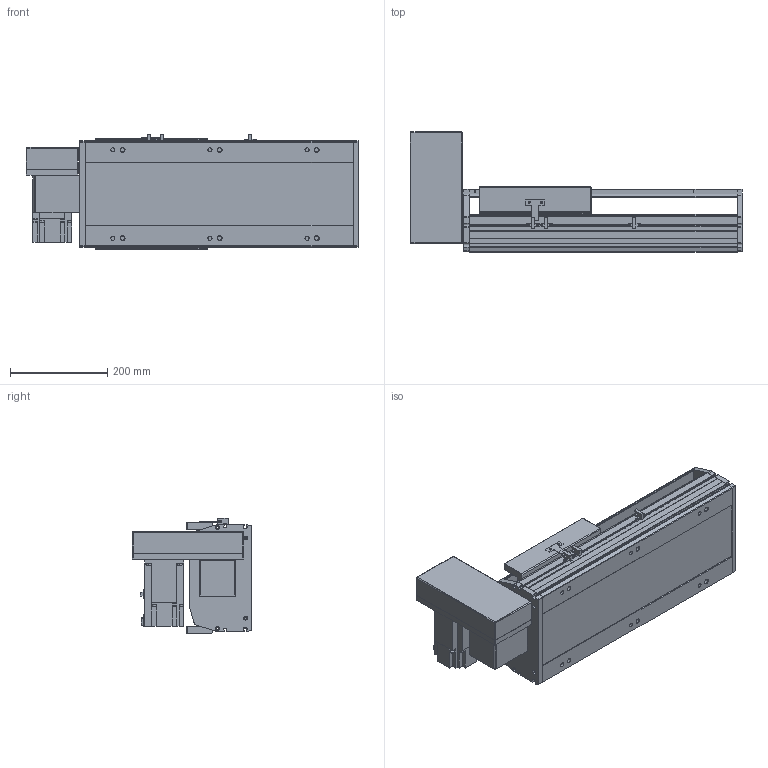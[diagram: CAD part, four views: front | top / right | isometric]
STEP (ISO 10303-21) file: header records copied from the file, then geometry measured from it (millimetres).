
FILE_DESCRIPTION(/* description */ ('STEP AP214'),/* implementation_level */ '2;1');
FILE_NAME(/* name */ 'PBS220-P40-S200-RU-T75-C1-N(0)',/* time_stamp */ '2022-06-13T02:49:38+02:00',/* author */ ('License CC BY-ND 4.0'),/* organization */ ('CADENAS'),/* preprocessor_version */ 'ST-DEVELOPER v18.102',/* originating_system */ 'PARTsolutions',/* authorisation */ ' ');
FILE_SCHEMA (('AUTOMOTIVE_DESIGN {1 0 10303 214 3 1 1}'));
Length unit declared in the file: millimetre
Products named in the file (7): PBS220-P40-S200-RU-T75-C1-N(0); PBS220_sensor; PBS220_plant; PBS220_sliser; T75-p1; PBS220T-RU_motors; PBS220-S200()_body
Assembly tree (8 placements, depth 2):
  PBS220-P40-S200-RU-T75-C1-N(0)
    PBS220_sensor  x3
    PBS220_plant
    PBS220_sliser
    T75-p1
    PBS220T-RU_motors
    PBS220-S200()_body
Bounding box: 684 x 247 x 238.5 mm (x, y, z)
Volume: 10688827.6 mm3; surface area: 1181747.1 mm2
Topology: 8 solids, 8 shells, 854 faces, 2256 edges, 1468 vertices
Faces by surface type: plane 578, cylinder 246, cone 30
Full cylindrical faces by diameter (mm): 2.013 x4, 4.5 x14, 4.917 x4, 6 x7, 6.647 x8, 8 x10, 8.376 x6, 8.5 x6, 10 x6, 14 x6, 38 x2, 40 x1, 70 x1
Entity records: 24069 total; most frequent: DIRECTION 4185, CARTESIAN_POINT 4162, ORIENTED_EDGE 3926, EDGE_CURVE 1963, AXIS2_PLACEMENT_3D 1425, VERTEX_POINT 1336, LINE 1335, VECTOR 1335
